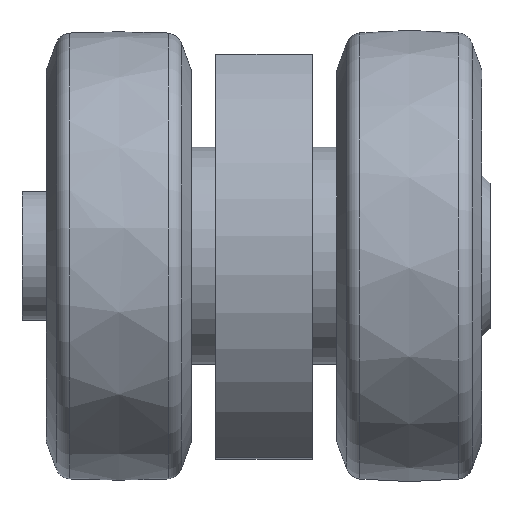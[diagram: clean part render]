
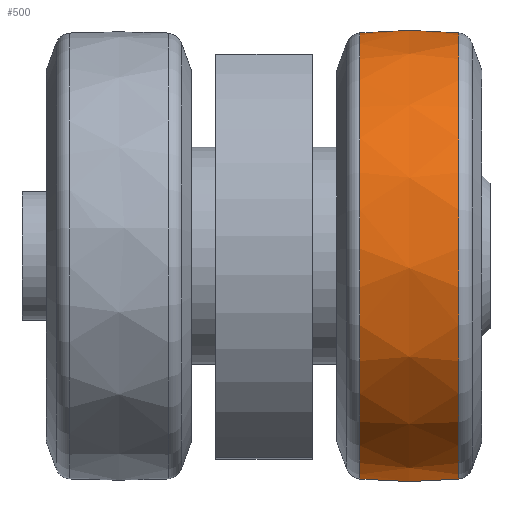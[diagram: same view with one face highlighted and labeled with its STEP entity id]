
A CAD part, top view. The second image highlights one B-rep face of the part: STEP entity #500.
In plain terms, the highlighted free-form (B-spline) face has degree [2, 2] with [3, 9] control points.
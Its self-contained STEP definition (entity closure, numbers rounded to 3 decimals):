
#35=(
BOUNDED_CURVE()
B_SPLINE_CURVE(2,(#895,#896,#897),.UNSPECIFIED.,.F.,.F.)
B_SPLINE_CURVE_WITH_KNOTS((3,3),(-0.109,0.109),
 .UNSPECIFIED.)
CURVE()
GEOMETRIC_REPRESENTATION_ITEM()
RATIONAL_B_SPLINE_CURVE((1.,0.994,1.))
REPRESENTATION_ITEM('')
);
#36=(
BOUNDED_SURFACE()
B_SPLINE_SURFACE(2,2,((#867,#868,#869,#870,#871,#872,#873,#874,#875),(#876,
#877,#878,#879,#880,#881,#882,#883,#884),(#885,#886,#887,#888,#889,#890,
#891,#892,#893)),.UNSPECIFIED.,.F.,.T.,.F.)
B_SPLINE_SURFACE_WITH_KNOTS((3,3),(3,2,2,2,3),(-0.109,0.109),
(-3.142,-1.571,0.,1.571,3.142),
 .UNSPECIFIED.)
GEOMETRIC_REPRESENTATION_ITEM()
RATIONAL_B_SPLINE_SURFACE(((1.,0.707,1.,0.707,1.,
0.707,1.,0.707,1.),(0.994,0.703,
0.994,0.703,0.994,0.703,0.994,
0.703,0.994),(1.,0.707,1.,0.707,
1.,0.707,1.,0.707,1.)))
REPRESENTATION_ITEM('')
SURFACE()
);
#148=FACE_OUTER_BOUND('',#201,.T.);
#201=EDGE_LOOP('',(#426,#427,#428,#429,#430,#431));
#258=CIRCLE('',#561,13.833);
#259=CIRCLE('',#562,13.833);
#261=CIRCLE('',#564,13.833);
#262=CIRCLE('',#565,13.833);
#302=VERTEX_POINT('',#861);
#303=VERTEX_POINT('',#862);
#305=VERTEX_POINT('',#894);
#306=VERTEX_POINT('',#898);
#350=EDGE_CURVE('',#302,#303,#258,.T.);
#351=EDGE_CURVE('',#303,#302,#259,.T.);
#353=EDGE_CURVE('',#303,#305,#35,.T.);
#354=EDGE_CURVE('',#306,#305,#261,.T.);
#355=EDGE_CURVE('',#305,#306,#262,.T.);
#426=ORIENTED_EDGE('',*,*,#350,.F.);
#427=ORIENTED_EDGE('',*,*,#351,.F.);
#428=ORIENTED_EDGE('',*,*,#353,.T.);
#429=ORIENTED_EDGE('',*,*,#354,.F.);
#430=ORIENTED_EDGE('',*,*,#355,.F.);
#431=ORIENTED_EDGE('',*,*,#353,.F.);
#500=ADVANCED_FACE('',(#148),#36,.F.);
#561=AXIS2_PLACEMENT_3D('',#863,#693,#694);
#562=AXIS2_PLACEMENT_3D('',#864,#695,#696);
#564=AXIS2_PLACEMENT_3D('',#899,#699,#700);
#565=AXIS2_PLACEMENT_3D('',#900,#701,#702);
#693=DIRECTION('center_axis',(1.,0.,0.));
#694=DIRECTION('ref_axis',(0.,-1.,0.));
#695=DIRECTION('center_axis',(1.,0.,0.));
#696=DIRECTION('ref_axis',(0.,-1.,0.));
#699=DIRECTION('center_axis',(-1.,0.,0.));
#700=DIRECTION('ref_axis',(0.,-1.,0.));
#701=DIRECTION('center_axis',(-1.,0.,0.));
#702=DIRECTION('ref_axis',(0.,-1.,0.));
#861=CARTESIAN_POINT('',(3.058,13.833,0.));
#862=CARTESIAN_POINT('',(3.058,0.,13.833));
#863=CARTESIAN_POINT('Origin',(3.058,0.,0.));
#864=CARTESIAN_POINT('Origin',(3.058,0.,0.));
#867=CARTESIAN_POINT('Ctrl Pts',(-3.058,0.,13.833));
#868=CARTESIAN_POINT('Ctrl Pts',(-3.058,-13.833,13.833));
#869=CARTESIAN_POINT('Ctrl Pts',(-3.058,-13.833,0.));
#870=CARTESIAN_POINT('Ctrl Pts',(-3.058,-13.833,-13.833));
#871=CARTESIAN_POINT('Ctrl Pts',(-3.058,0.,-13.833));
#872=CARTESIAN_POINT('Ctrl Pts',(-3.058,13.833,-13.833));
#873=CARTESIAN_POINT('Ctrl Pts',(-3.058,13.833,0.));
#874=CARTESIAN_POINT('Ctrl Pts',(-3.058,13.833,13.833));
#875=CARTESIAN_POINT('Ctrl Pts',(-3.058,0.,13.833));
#876=CARTESIAN_POINT('Ctrl Pts',(0.,0.,14.168));
#877=CARTESIAN_POINT('Ctrl Pts',(0.,-14.168,
14.168));
#878=CARTESIAN_POINT('Ctrl Pts',(0.,-14.168,
0.));
#879=CARTESIAN_POINT('Ctrl Pts',(0.,-14.168,
-14.168));
#880=CARTESIAN_POINT('Ctrl Pts',(0.,0.,-14.168));
#881=CARTESIAN_POINT('Ctrl Pts',(0.,14.168,
-14.168));
#882=CARTESIAN_POINT('Ctrl Pts',(0.,14.168,
0.));
#883=CARTESIAN_POINT('Ctrl Pts',(0.,14.168,
14.168));
#884=CARTESIAN_POINT('Ctrl Pts',(0.,0.,14.168));
#885=CARTESIAN_POINT('Ctrl Pts',(3.058,0.,13.833));
#886=CARTESIAN_POINT('Ctrl Pts',(3.058,-13.833,13.833));
#887=CARTESIAN_POINT('Ctrl Pts',(3.058,-13.833,0.));
#888=CARTESIAN_POINT('Ctrl Pts',(3.058,-13.833,-13.833));
#889=CARTESIAN_POINT('Ctrl Pts',(3.058,0.,-13.833));
#890=CARTESIAN_POINT('Ctrl Pts',(3.058,13.833,-13.833));
#891=CARTESIAN_POINT('Ctrl Pts',(3.058,13.833,0.));
#892=CARTESIAN_POINT('Ctrl Pts',(3.058,13.833,13.833));
#893=CARTESIAN_POINT('Ctrl Pts',(3.058,0.,13.833));
#894=CARTESIAN_POINT('',(-3.058,0.,13.833));
#895=CARTESIAN_POINT('Ctrl Pts',(3.058,0.,13.833));
#896=CARTESIAN_POINT('Ctrl Pts',(0.,0.,14.168));
#897=CARTESIAN_POINT('Ctrl Pts',(-3.058,0.,13.833));
#898=CARTESIAN_POINT('',(-3.058,13.833,0.));
#899=CARTESIAN_POINT('Origin',(-3.058,0.,0.));
#900=CARTESIAN_POINT('Origin',(-3.058,0.,0.));
